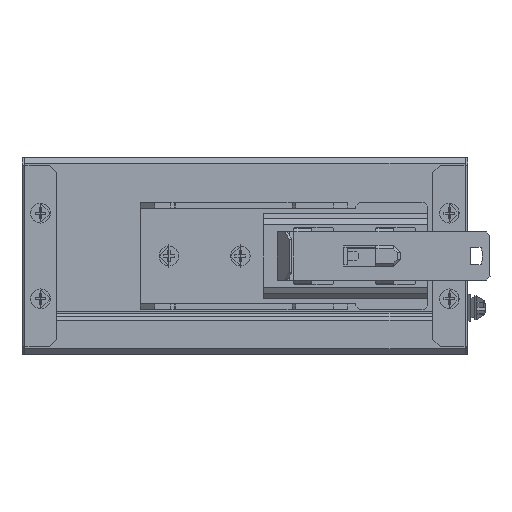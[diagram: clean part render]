
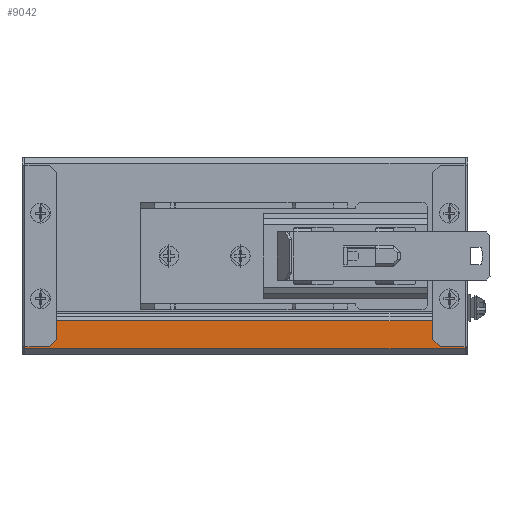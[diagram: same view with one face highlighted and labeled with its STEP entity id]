
A CAD part, left-side view. The second image highlights one B-rep face of the part: STEP entity #9042.
In plain terms, the highlighted planar face has unit normal (-1, 0, 0).
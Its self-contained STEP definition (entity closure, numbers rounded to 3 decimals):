
#9042=ADVANCED_FACE('',(#16903),#136524,.T.);
#16903=FACE_OUTER_BOUND('',#26558,.T.);
#26558=EDGE_LOOP('',(#62139,#62140,#62141,#62142));
#62139=ORIENTED_EDGE('',*,*,#88993,.F.);
#62140=ORIENTED_EDGE('',*,*,#88989,.T.);
#62141=ORIENTED_EDGE('',*,*,#88992,.F.);
#62142=ORIENTED_EDGE('',*,*,#88985,.F.);
#88985=EDGE_CURVE('',#126883,#126884,#111744,.T.);
#88989=EDGE_CURVE('',#126886,#126887,#111748,.T.);
#88992=EDGE_CURVE('',#126884,#126887,#111751,.T.);
#88993=EDGE_CURVE('',#126886,#126883,#111752,.T.);
#111744=B_SPLINE_CURVE_WITH_KNOTS('',1,(#236234,#236235),.UNSPECIFIED.,
 .F.,.F.,(2,2),(0.,7.879),.UNSPECIFIED.);
#111748=B_SPLINE_CURVE_WITH_KNOTS('',1,(#236242,#236243),.UNSPECIFIED.,
 .F.,.F.,(2,2),(0.,7.879),.UNSPECIFIED.);
#111751=B_SPLINE_CURVE_WITH_KNOTS('',1,(#236248,#236249),.UNSPECIFIED.,
 .F.,.F.,(2,2),(0.,123.4),.UNSPECIFIED.);
#111752=B_SPLINE_CURVE_WITH_KNOTS('',1,(#236250,#236251),.UNSPECIFIED.,
 .F.,.F.,(2,2),(0.,123.4),.UNSPECIFIED.);
#126883=VERTEX_POINT('',#236008);
#126884=VERTEX_POINT('',#236009);
#126886=VERTEX_POINT('',#236011);
#126887=VERTEX_POINT('',#236012);
#136524=PLANE('',#142500);
#142500=AXIS2_PLACEMENT_3D('',#234152,#148444,$);
#148444=DIRECTION('',(-1.,0.,0.));
#234152=CARTESIAN_POINT('',(-149.504,213.856,-64.508));
#236008=CARTESIAN_POINT('',(-149.504,201.396,-63.6));
#236009=CARTESIAN_POINT('',(-149.504,201.396,-55.721));
#236011=CARTESIAN_POINT('',(-149.504,77.996,-63.6));
#236012=CARTESIAN_POINT('',(-149.504,77.996,-55.721));
#236234=CARTESIAN_POINT('',(-149.504,201.396,-63.6));
#236235=CARTESIAN_POINT('',(-149.504,201.396,-55.721));
#236242=CARTESIAN_POINT('',(-149.504,77.996,-63.6));
#236243=CARTESIAN_POINT('',(-149.504,77.996,-55.721));
#236248=CARTESIAN_POINT('',(-149.504,201.396,-55.721));
#236249=CARTESIAN_POINT('',(-149.504,77.996,-55.721));
#236250=CARTESIAN_POINT('',(-149.504,77.996,-63.6));
#236251=CARTESIAN_POINT('',(-149.504,201.396,-63.6));
